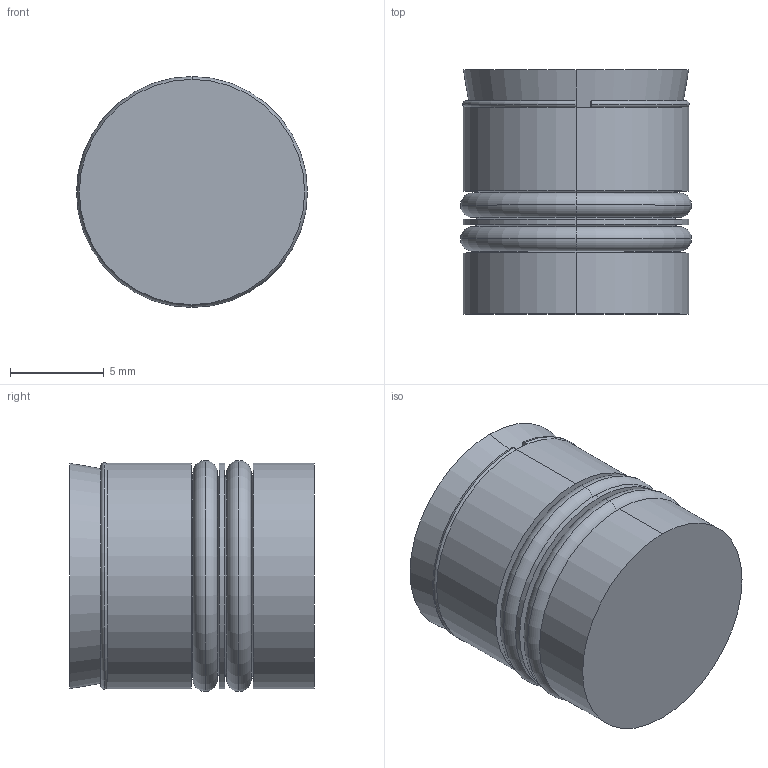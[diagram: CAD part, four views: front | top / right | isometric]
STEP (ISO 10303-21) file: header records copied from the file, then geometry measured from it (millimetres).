
FILE_DESCRIPTION (( 'STEP AP203' ), '1' );
FILE_NAME ('TCR2_12.STEP', '2023-04-24T12:07:55', ( '' ), ( '' ), 'SwSTEP 2.0', 'SolidWorks 2022', '' );
FILE_SCHEMA (( 'CONFIG_CONTROL_DESIGN' ));
Length unit declared in the file: millimetre
Products named in the file (1): TCR2_12
Bounding box: 12.3 x 13 x 12.3 mm (x, y, z)
Volume: 1440.9 mm3; surface area: 1157.8 mm2
Topology: 4 solids, 4 shells, 35 faces, 66 edges, 40 vertices
Faces by surface type: torus 18, plane 9, cylinder 6, cone 2
Entity records: 981 total; most frequent: DIRECTION 196, CARTESIAN_POINT 142, ORIENTED_EDGE 132, AXIS2_PLACEMENT_3D 94, EDGE_CURVE 66, CIRCLE 58, VERTEX_POINT 40, EDGE_LOOP 40
